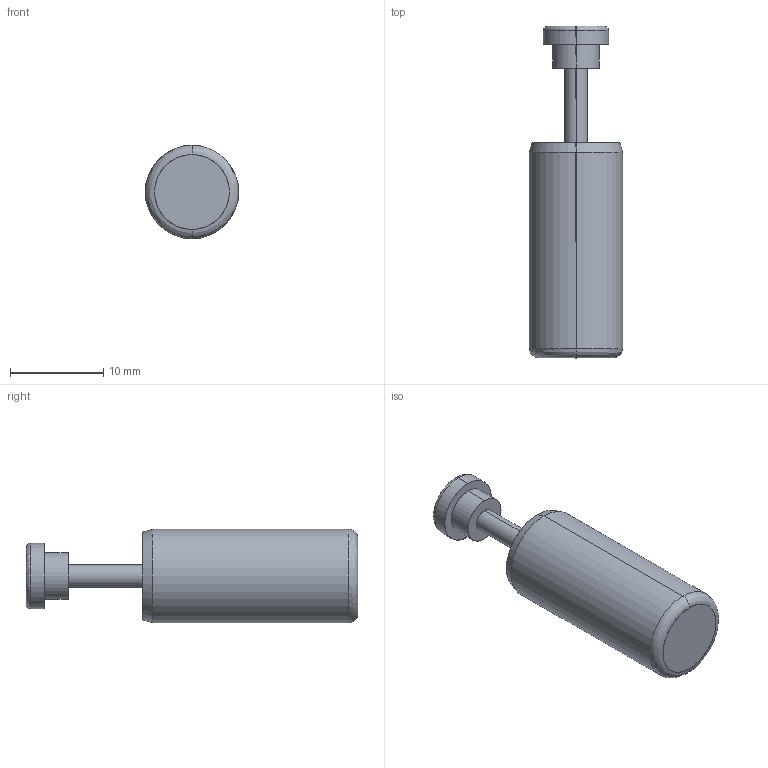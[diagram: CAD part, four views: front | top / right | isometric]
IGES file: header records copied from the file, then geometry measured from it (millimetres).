
Start section: SolidWorks IGES file using analytic representation for surfaces
Bounding box: 10 x 35.5 x 10 mm (x, y, z)
Surface area: 1063 mm2 (no closed solid volume)
Topology: 0 solids, 0 shells, 19 faces, 312 edges, 312 vertices
Faces by surface type: revolution 10, bspline 9
